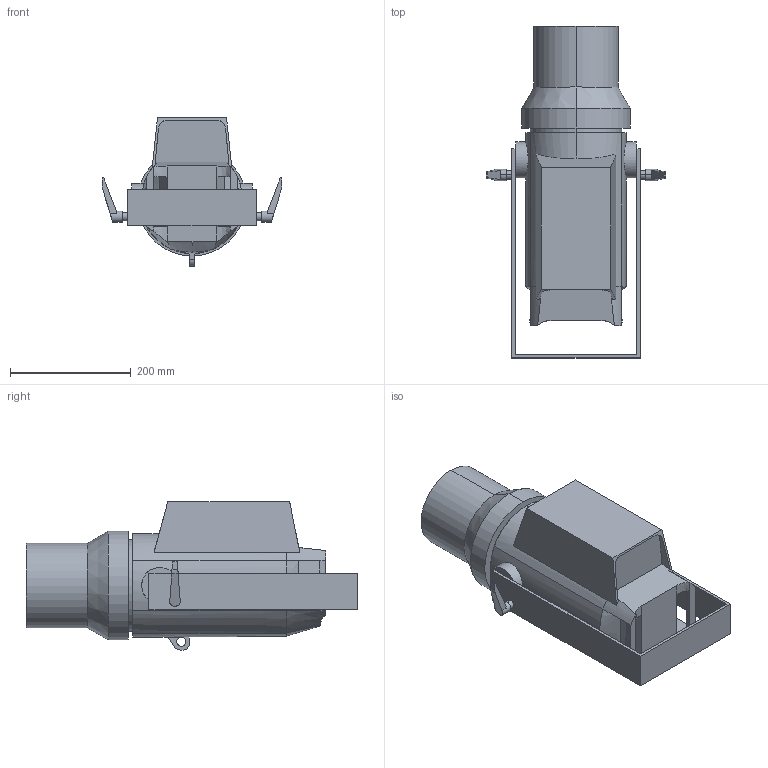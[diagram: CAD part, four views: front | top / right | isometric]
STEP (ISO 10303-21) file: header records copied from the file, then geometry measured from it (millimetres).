
FILE_DESCRIPTION((''),'2;1');
FILE_NAME('000_ASM','2026-04-16T15:29:53',('006374'),(''),'CREO PARAMETRIC BY PTC INC, 2018050','CREO PARAMETRIC BY PTC INC, 2018050','');
FILE_SCHEMA(('CONFIG_CONTROL_DESIGN'));
Length unit declared in the file: millimetre
Products named in the file (4): 00; 000; 32000539A-0001; 000_ASM
Assembly tree (4 placements, depth 2):
  000_ASM
    00
    000
    32000539A-0001  x2
Bounding box: 297.36 x 549.52 x 245.19 mm (x, y, z)
Volume: 11912495 mm3; surface area: 488547.2 mm2
Topology: 4 solids, 6 shells, 134 faces, 330 edges, 210 vertices
Faces by surface type: plane 69, cylinder 40, bspline 18, extrusion 5, cone 2
Entity records: 4493 total; most frequent: CARTESIAN_POINT 1847, ORIENTED_EDGE 564, DIRECTION 454, EDGE_CURVE 282, VERTEX_POINT 178, VECTOR 156, LINE 151, AXIS2_PLACEMENT_3D 149
